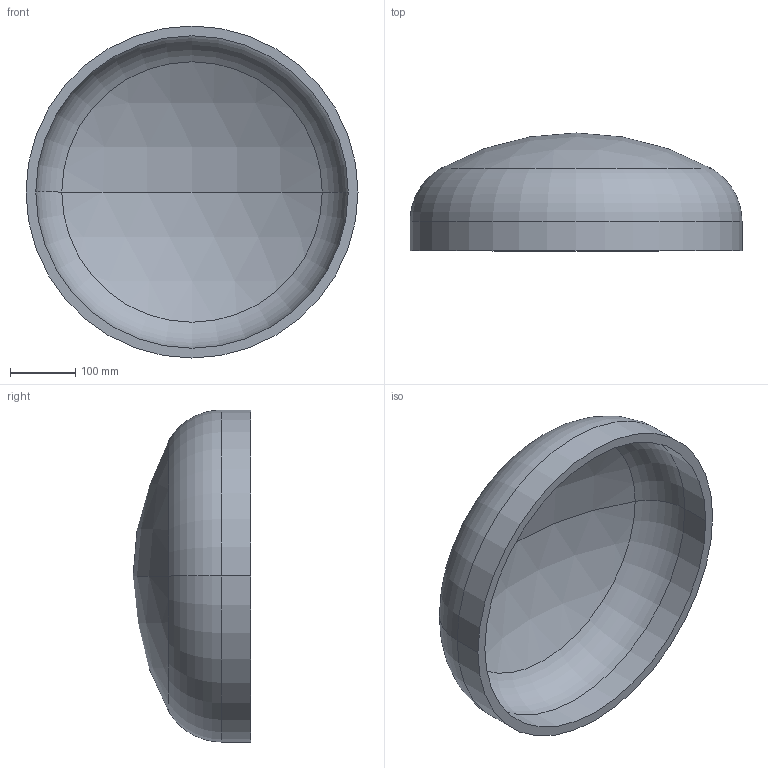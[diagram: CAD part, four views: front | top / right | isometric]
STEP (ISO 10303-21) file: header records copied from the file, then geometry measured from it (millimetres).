
FILE_DESCRIPTION (( 'STEP AP203' ), '1' );
FILE_NAME ('DIN 28013 Korbbogenform_-_Boden DIN 28013 - 508 x 45 - I - s=15.step', '2016-07-01T07:52:39', ( '' ), ( '' ), 'SwSTEP 2.0', 'SolidWorks 2013', '' );
FILE_SCHEMA (( 'CONFIG_CONTROL_DESIGN' ));
Length unit declared in the file: millimetre
Products named in the file (1): DIN 28013 Korbbogenform_-_Boden DIN 28013 - 508 x 45 - I - s=15
Bounding box: 508 x 180.23 x 508 mm (x, y, z)
Volume: 5094629.3 mm3; surface area: 702987 mm2
Topology: 1 solids, 1 shells, 13 faces, 24 edges, 14 vertices
Faces by surface type: torus 4, cylinder 4, sphere 4, plane 1
Entity records: 407 total; most frequent: DIRECTION 72, CARTESIAN_POINT 52, ORIENTED_EDGE 48, AXIS2_PLACEMENT_3D 34, EDGE_CURVE 24, CIRCLE 20, VERTEX_POINT 14, EDGE_LOOP 14
